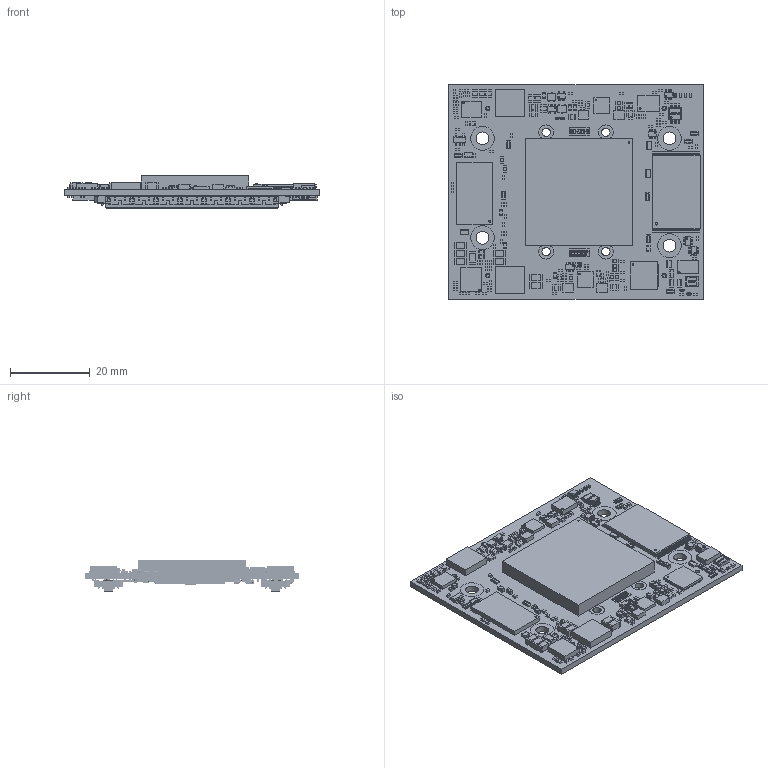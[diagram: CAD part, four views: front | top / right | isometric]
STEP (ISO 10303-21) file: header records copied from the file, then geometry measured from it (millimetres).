
FILE_DESCRIPTION(('Open CASCADE Model'),'2;1');
FILE_NAME('Open CASCADE Shape Model','2016-07-14T18:40:20',('Author'),( 'Open CASCADE'),'Open CASCADE STEP processor 6.8','Open CASCADE 6.8' ,'Unknown');
FILE_SCHEMA(('AUTOMOTIVE_DESIGN { 1 0 10303 214 1 1 1 1 }'));
Length unit declared in the file: millimetre
Products named in the file (426): --
Assembly tree (778 placements, depth 4):
  --
    --
    --
      --
    --
      --
    --
      --
    --
      --
    --
      --
    --
      --
    --
      --
    --
      --
    --
      --
    --
      --
    --
      --
    --
      --
    --
      --
    --
      --
    --
      --
    --
      --
    --
      --
    --
      --
    --
      --
    --
      --
    --
      --
    --
      --
    --
      --
    --
      --
    --
      --
    --
      --
    --
      --
    --
      --
    --
      --
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Bounding box: 64 x 54 x 8.16 mm (x, y, z)
Volume: 10337.2 mm3; surface area: 17646.6 mm2
Topology: 876 solids, 876 shells, 16897 faces, 41649 edges, 27092 vertices
Faces by surface type: plane 15117, cylinder 998, bspline 720, sphere 50, cone 8, torus 4
Full cylindrical faces by diameter (mm): 0.2 x3, 0.4 x10, 1.1 x2, 1.2 x2, 2.1 x12, 3.2 x12, 3.7 x8, 6 x4, 6.4 x4
Entity records: 404418 total; most frequent: CARTESIAN_POINT 133860, DIRECTION 42346, LINE 31187, VECTOR 31187, ORIENTED_EDGE 23668, PCURVE 23668, DEFINITIONAL_REPRESENTATION 23668, EDGE_CURVE 11834
